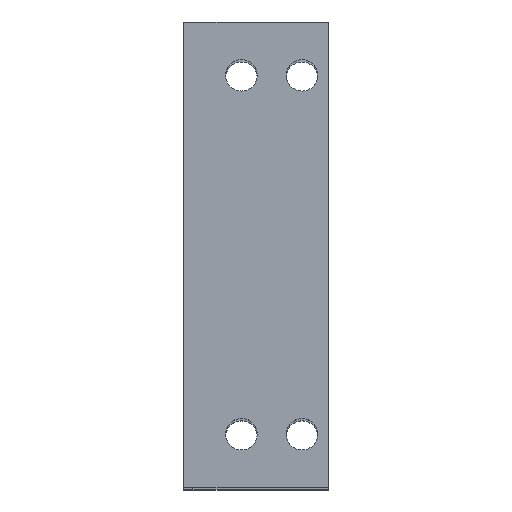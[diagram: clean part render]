
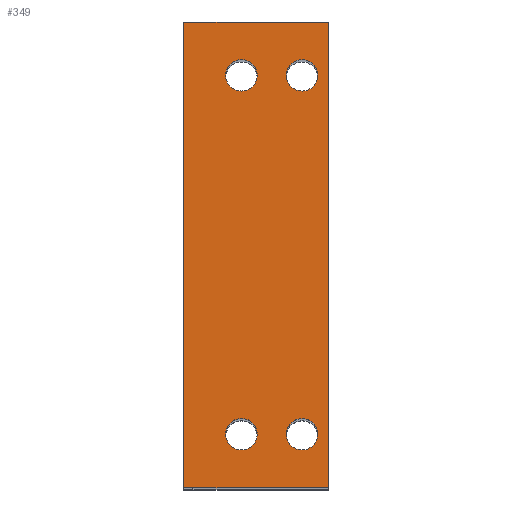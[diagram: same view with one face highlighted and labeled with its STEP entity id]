
A CAD part, top view. The second image highlights one B-rep face of the part: STEP entity #349.
In plain terms, the highlighted planar face has unit normal (0, 0, 1).
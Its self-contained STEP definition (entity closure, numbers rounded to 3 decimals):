
#33 = VERTEX_POINT('',#34);
#34 = CARTESIAN_POINT('',(98.394,76.263,
    143.94));
#40 = EDGE_CURVE('',#33,#41,#43,.T.);
#41 = VERTEX_POINT('',#42);
#42 = CARTESIAN_POINT('',(98.394,69.763,
    143.94));
#43 = CIRCLE('',#44,3.25);
#44 = AXIS2_PLACEMENT_3D('',#45,#46,#47);
#45 = CARTESIAN_POINT('',(98.394,73.013,
    143.94));
#46 = DIRECTION('',(0.,0.,-1.));
#47 = DIRECTION('',(0.,1.,0.));
#75 = VERTEX_POINT('',#76);
#76 = CARTESIAN_POINT('',(98.394,150.263,
    143.94));
#82 = EDGE_CURVE('',#75,#83,#85,.T.);
#83 = VERTEX_POINT('',#84);
#84 = CARTESIAN_POINT('',(98.394,143.763,
    143.94));
#85 = CIRCLE('',#86,3.25);
#86 = AXIS2_PLACEMENT_3D('',#87,#88,#89);
#87 = CARTESIAN_POINT('',(98.394,147.013,
    143.94));
#88 = DIRECTION('',(0.,0.,-1.));
#89 = DIRECTION('',(0.,-1.,0.));
#201 = VERTEX_POINT('',#202);
#202 = CARTESIAN_POINT('',(85.894,76.263,
    143.94));
#208 = EDGE_CURVE('',#209,#201,#211,.T.);
#209 = VERTEX_POINT('',#210);
#210 = CARTESIAN_POINT('',(85.894,69.763,
    143.94));
#211 = CIRCLE('',#212,3.25);
#212 = AXIS2_PLACEMENT_3D('',#213,#214,#215);
#213 = CARTESIAN_POINT('',(85.894,73.013,
    143.94));
#214 = DIRECTION('',(0.,0.,1.));
#215 = DIRECTION('',(0.,1.,0.));
#243 = VERTEX_POINT('',#244);
#244 = CARTESIAN_POINT('',(85.894,150.263,
    143.94));
#250 = EDGE_CURVE('',#251,#243,#253,.T.);
#251 = VERTEX_POINT('',#252);
#252 = CARTESIAN_POINT('',(85.894,143.763,
    143.94));
#253 = CIRCLE('',#254,3.25);
#254 = AXIS2_PLACEMENT_3D('',#255,#256,#257);
#255 = CARTESIAN_POINT('',(85.894,147.013,
    143.94));
#256 = DIRECTION('',(0.,0.,1.));
#257 = DIRECTION('',(0.,1.,0.));
#324 = VERTEX_POINT('',#325);
#325 = CARTESIAN_POINT('',(103.894,62.013,
    143.94));
#331 = EDGE_CURVE('',#324,#332,#334,.T.);
#332 = VERTEX_POINT('',#333);
#333 = CARTESIAN_POINT('',(76.494,62.013,
    143.94));
#334 = LINE('',#335,#336);
#335 = CARTESIAN_POINT('',(75.894,62.013,
    143.94));
#336 = VECTOR('',#337,1.);
#337 = DIRECTION('',(-1.,0.,0.));
#349 = ADVANCED_FACE('',(#350,#360,#370,#380,#390),#431,.F.);
#350 = FACE_BOUND('',#351,.T.);
#351 = EDGE_LOOP('',(#352,#359));
#352 = ORIENTED_EDGE('',*,*,#353,.F.);
#353 = EDGE_CURVE('',#243,#251,#354,.T.);
#354 = CIRCLE('',#355,3.25);
#355 = AXIS2_PLACEMENT_3D('',#356,#357,#358);
#356 = CARTESIAN_POINT('',(85.894,147.013,
    143.94));
#357 = DIRECTION('',(0.,0.,1.));
#358 = DIRECTION('',(0.,1.,0.));
#359 = ORIENTED_EDGE('',*,*,#250,.F.);
#360 = FACE_BOUND('',#361,.T.);
#361 = EDGE_LOOP('',(#362,#369));
#362 = ORIENTED_EDGE('',*,*,#363,.F.);
#363 = EDGE_CURVE('',#201,#209,#364,.T.);
#364 = CIRCLE('',#365,3.25);
#365 = AXIS2_PLACEMENT_3D('',#366,#367,#368);
#366 = CARTESIAN_POINT('',(85.894,73.013,
    143.94));
#367 = DIRECTION('',(0.,0.,1.));
#368 = DIRECTION('',(0.,1.,0.));
#369 = ORIENTED_EDGE('',*,*,#208,.F.);
#370 = FACE_BOUND('',#371,.T.);
#371 = EDGE_LOOP('',(#372,#373));
#372 = ORIENTED_EDGE('',*,*,#82,.T.);
#373 = ORIENTED_EDGE('',*,*,#374,.T.);
#374 = EDGE_CURVE('',#83,#75,#375,.T.);
#375 = CIRCLE('',#376,3.25);
#376 = AXIS2_PLACEMENT_3D('',#377,#378,#379);
#377 = CARTESIAN_POINT('',(98.394,147.013,
    143.94));
#378 = DIRECTION('',(0.,0.,-1.));
#379 = DIRECTION('',(0.,-1.,0.));
#380 = FACE_BOUND('',#381,.T.);
#381 = EDGE_LOOP('',(#382,#383));
#382 = ORIENTED_EDGE('',*,*,#40,.T.);
#383 = ORIENTED_EDGE('',*,*,#384,.T.);
#384 = EDGE_CURVE('',#41,#33,#385,.T.);
#385 = CIRCLE('',#386,3.25);
#386 = AXIS2_PLACEMENT_3D('',#387,#388,#389);
#387 = CARTESIAN_POINT('',(98.394,73.013,
    143.94));
#388 = DIRECTION('',(0.,0.,-1.));
#389 = DIRECTION('',(0.,1.,0.));
#390 = FACE_BOUND('',#391,.T.);
#391 = EDGE_LOOP('',(#392,#393,#401,#409,#417,#425));
#392 = ORIENTED_EDGE('',*,*,#331,.F.);
#393 = ORIENTED_EDGE('',*,*,#394,.T.);
#394 = EDGE_CURVE('',#324,#395,#397,.T.);
#395 = VERTEX_POINT('',#396);
#396 = CARTESIAN_POINT('',(103.894,158.013,
    143.94));
#397 = LINE('',#398,#399);
#398 = CARTESIAN_POINT('',(103.894,62.013,
    143.94));
#399 = VECTOR('',#400,1.);
#400 = DIRECTION('',(0.,1.,-0.));
#401 = ORIENTED_EDGE('',*,*,#402,.T.);
#402 = EDGE_CURVE('',#395,#403,#405,.T.);
#403 = VERTEX_POINT('',#404);
#404 = CARTESIAN_POINT('',(76.494,158.013,
    143.94));
#405 = LINE('',#406,#407);
#406 = CARTESIAN_POINT('',(75.894,158.013,
    143.94));
#407 = VECTOR('',#408,1.);
#408 = DIRECTION('',(-1.,0.,0.));
#409 = ORIENTED_EDGE('',*,*,#410,.T.);
#410 = EDGE_CURVE('',#403,#411,#413,.T.);
#411 = VERTEX_POINT('',#412);
#412 = CARTESIAN_POINT('',(73.894,158.013,
    143.94));
#413 = LINE('',#414,#415);
#414 = CARTESIAN_POINT('',(75.894,158.013,
    143.94));
#415 = VECTOR('',#416,1.);
#416 = DIRECTION('',(-1.,0.,0.));
#417 = ORIENTED_EDGE('',*,*,#418,.F.);
#418 = EDGE_CURVE('',#419,#411,#421,.T.);
#419 = VERTEX_POINT('',#420);
#420 = CARTESIAN_POINT('',(73.894,62.013,
    143.94));
#421 = LINE('',#422,#423);
#422 = CARTESIAN_POINT('',(73.894,62.013,
    143.94));
#423 = VECTOR('',#424,1.);
#424 = DIRECTION('',(0.,1.,0.));
#425 = ORIENTED_EDGE('',*,*,#426,.F.);
#426 = EDGE_CURVE('',#332,#419,#427,.T.);
#427 = LINE('',#428,#429);
#428 = CARTESIAN_POINT('',(75.894,62.013,
    143.94));
#429 = VECTOR('',#430,1.);
#430 = DIRECTION('',(-1.,0.,0.));
#431 = PLANE('',#432);
#432 = AXIS2_PLACEMENT_3D('',#433,#434,#435);
#433 = CARTESIAN_POINT('',(75.894,62.013,
    143.94));
#434 = DIRECTION('',(0.,0.,-1.));
#435 = DIRECTION('',(1.,0.,0.));
